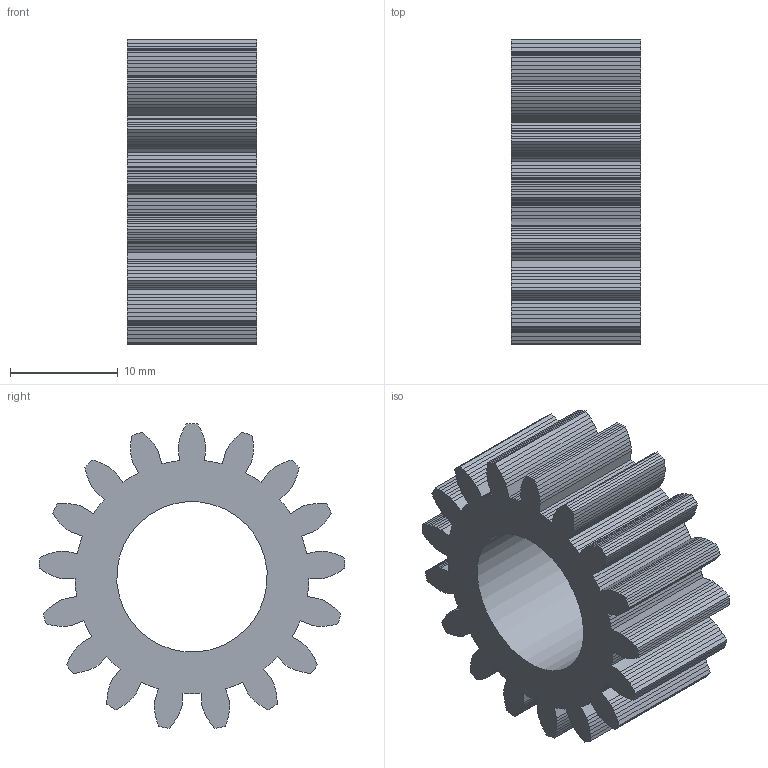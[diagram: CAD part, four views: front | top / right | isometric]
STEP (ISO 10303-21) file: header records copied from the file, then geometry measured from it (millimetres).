
FILE_DESCRIPTION(('Open CASCADE Model'),'2;1');
FILE_NAME('Open CASCADE Shape Model','2026-10-17T22:10:42',('Author'),( 'Open CASCADE'),'Open CASCADE STEP processor 7.9','Open CASCADE 7.9' ,'Unknown');
FILE_SCHEMA(('AUTOMOTIVE_DESIGN { 1 0 10303 214 1 1 1 1 }'));
Length unit declared in the file: millimetre
Products named in the file (1): Open CASCADE STEP translator 7.9 12
Bounding box: 12 x 28.45 x 28.34 mm (x, y, z)
Volume: 4095.2 mm3; surface area: 3224.7 mm2
Topology: 1 solids, 1 shells, 428 faces, 1278 edges, 852 vertices
Faces by surface type: plane 427, cylinder 1
Full cylindrical faces by diameter (mm): 14 x1
Entity records: 30718 total; most frequent: CARTESIAN_POINT 5127, DIRECTION 4692, LINE 3830, VECTOR 3830, ORIENTED_EDGE 2556, PCURVE 2556, DEFINITIONAL_REPRESENTATION 2556, EDGE_CURVE 1278
